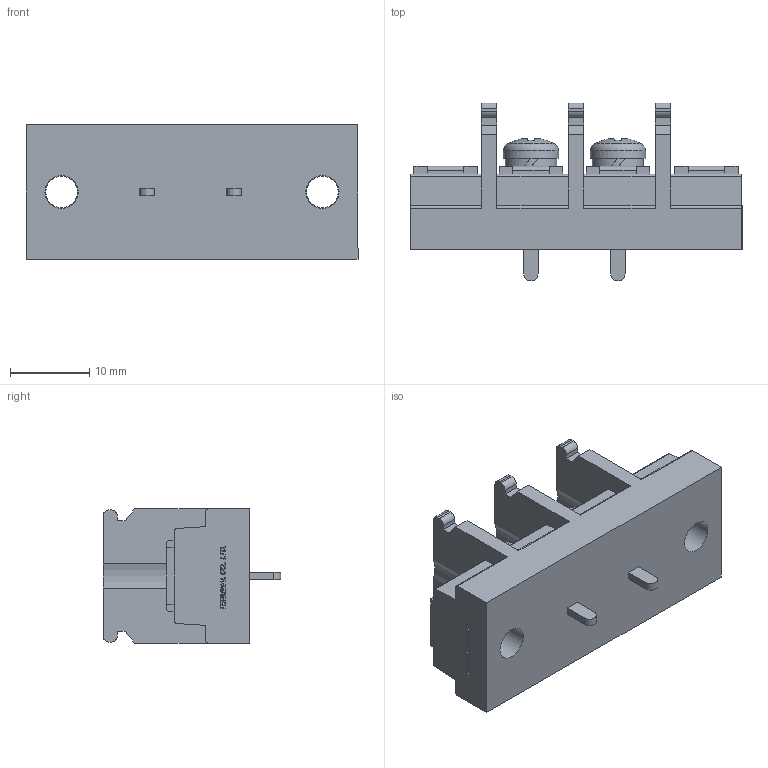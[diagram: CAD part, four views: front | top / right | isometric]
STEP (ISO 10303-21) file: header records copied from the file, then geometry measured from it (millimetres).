
FILE_DESCRIPTION(/* description */ ('Alibre Inc.'),/* implementation_level */ '2;1');
FILE_NAME(/* name */ 'export0',/* time_stamp */ '2015-10-19T19:05:33+09:00',/* author */ (''),/* organization */ (''),/* preprocessor_version */ 'ST-DEVELOPER v14',/* originating_system */ 'Alibre',/* authorisation */ '');
FILE_SCHEMA (('CONFIG_CONTROL_DESIGN'));
Length unit declared in the file: centimetre
Products named in the file (1): ID_1
Bounding box: 42 x 22.5 x 17 mm (x, y, z)
Volume: 7134 mm3; surface area: 4249.3 mm2
Topology: 1 solids, 1 shells, 594 faces, 1622 edges, 1080 vertices
Faces by surface type: plane 422, bspline 104, cylinder 54, cone 8, torus 4, sphere 2
Full cylindrical faces by diameter (mm): 4 x4, 4.2 x2, 6.5 x2, 7 x2
Entity records: 18263 total; most frequent: CARTESIAN_POINT 4254, ORIENTED_EDGE 3204, DIRECTION 2089, EDGE_CURVE 1602, VECTOR 1207, LINE 1207, VERTEX_POINT 1072, EDGE_LOOP 664
